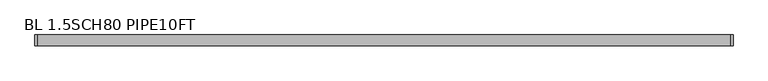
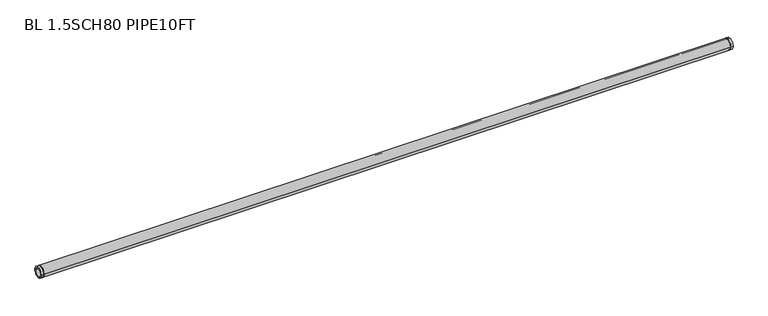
"""IFC4 building model written with IfcOpenShell, lengths in millimetres: valve geometry, Pipe-FRPP-Orion-Blueline_Schedule_80_Series : BL 1.5SCH80 PIPE10FT."""

from ifc_helpers import new_model, si_unit, frame, origin, place, context, project, spatial, polyline, circle_curve, source, transform, mapped, element, save
from ifc_brep_helpers import plane_surface, cylinder_surface, revolved_surface, advanced_brep


def bl_1_5sch80_pipe10ft_28528441(model_context):
    return source(origin(), model_context, "Body", "AdvancedBrep", [
        advanced_brep(
        [(-1524.0, -19.05, 0.0), (-1524.0, 19.05, 0.0), (-1524.0, 24.1101562, 0.0), (-1524.0, -24.1101563, 0.0), (1524.0, -19.05, 0.0), (1524.0, 19.05, 0.0), (1524.0, -24.1101563, 0.0), (1524.0, 24.1101562, 0.0), (1514.1702, -24.1101563, 0.0), (1514.1702, 24.1101562, 0.0), (1514.1702, -23.0941563, 0.0), (1514.1702, 23.0941563, 0.0), (1510.9952, -23.0941563, 0.0), (1510.9952, 23.0941563, 0.0), (1510.9952, -24.1101563, 0.0), (1510.9952, 24.1101562, 0.0), (-1510.9952, -24.1101563, 0.0), (-1510.9952, 24.1101562, 0.0), (-1510.9952, -23.0941563, 0.0), (-1510.9952, 23.0941562, 0.0), (-1514.1702, -23.0941563, 0.0), (-1514.1702, 23.0941562, 0.0), (-1514.1702, -24.1101563, 0.0), (-1514.1702, 24.1101562, 0.0)],
        [
            (0, 1, circle_curve(frame((-1524.0, 0.0, 0.0), z_axis=(1.0, 0.0, 0.0), x_axis=(0.0, 1.0, 0.0)), 19.05)),
            (1, 2),
            (2, 3, circle_curve(frame((-1524.0, 0.0, 0.0), z_axis=(-1.0, 0.0, 0.0), x_axis=(0.0, 1.0, 0.0)), 24.1101563)),
            (3, 0),
            (1, 0, circle_curve(frame((-1524.0, 0.0, 0.0), z_axis=(1.0, 0.0, 0.0), x_axis=(0.0, 1.0, 0.0)), 19.05)),
            (3, 2, circle_curve(frame((-1524.0, 0.0, 0.0), z_axis=(-1.0, 0.0, 0.0), x_axis=(0.0, 1.0, 0.0)), 24.1101563)),
            (4, 5, circle_curve(frame((1524.0, 0.0, 0.0), z_axis=(1.0, 0.0, 0.0), x_axis=(0.0, 1.0, 0.0)), 19.05)),
            (5, 1),
            (0, 4),
            (5, 4, circle_curve(frame((1524.0, 0.0, 0.0), z_axis=(1.0, 0.0, 0.0), x_axis=(0.0, 1.0, 0.0)), 19.05)),
            (6, 7, circle_curve(frame((1524.0, 0.0, 0.0), z_axis=(1.0, 0.0, 0.0), x_axis=(0.0, 1.0, 0.0)), 24.1101563)),
            (7, 5),
            (4, 6),
            (7, 6, circle_curve(frame((1524.0, 0.0, 0.0), z_axis=(1.0, 0.0, 0.0), x_axis=(0.0, 1.0, 0.0)), 24.1101563)),
            (8, 9, circle_curve(frame((1514.1702, 0.0, 0.0), z_axis=(1.0, 0.0, 0.0), x_axis=(0.0, 1.0, 0.0)), 24.1101563)),
            (9, 7),
            (6, 8),
            (9, 8, circle_curve(frame((1514.1702, 0.0, 0.0), z_axis=(1.0, 0.0, 0.0), x_axis=(0.0, 1.0, 0.0)), 24.1101563)),
            (10, 11, circle_curve(frame((1514.1702, 0.0, 0.0), z_axis=(1.0, 0.0, 0.0), x_axis=(0.0, 1.0, 0.0)), 23.0941563)),
            (11, 9),
            (8, 10),
            (11, 10, circle_curve(frame((1514.1702, 0.0, 0.0), z_axis=(1.0, 0.0, 0.0), x_axis=(0.0, 1.0, 0.0)), 23.0941563)),
            (12, 13, circle_curve(frame((1510.9952, 0.0, 0.0), z_axis=(1.0, 0.0, 0.0), x_axis=(0.0, 1.0, 0.0)), 23.0941563)),
            (13, 11),
            (10, 12),
            (13, 12, circle_curve(frame((1510.9952, 0.0, 0.0), z_axis=(1.0, 0.0, 0.0), x_axis=(0.0, 1.0, 0.0)), 23.0941563)),
            (14, 15, circle_curve(frame((1510.9952, 0.0, 0.0), z_axis=(1.0, 0.0, 0.0), x_axis=(0.0, 1.0, 0.0)), 24.1101563)),
            (15, 13),
            (12, 14),
            (15, 14, circle_curve(frame((1510.9952, 0.0, 0.0), z_axis=(1.0, 0.0, 0.0), x_axis=(0.0, 1.0, 0.0)), 24.1101563)),
            (16, 17, circle_curve(frame((-1510.9952, 0.0, 0.0), z_axis=(1.0, 0.0, 0.0), x_axis=(0.0, 1.0, 0.0)), 24.1101563)),
            (17, 15),
            (14, 16),
            (17, 16, circle_curve(frame((-1510.9952, 0.0, 0.0), z_axis=(1.0, 0.0, 0.0), x_axis=(0.0, 1.0, 0.0)), 24.1101563)),
            (18, 19, circle_curve(frame((-1510.9952, 0.0, 0.0), z_axis=(1.0, 0.0, 0.0), x_axis=(0.0, 1.0, 0.0)), 23.0941563)),
            (19, 17),
            (16, 18),
            (19, 18, circle_curve(frame((-1510.9952, 0.0, 0.0), z_axis=(1.0, 0.0, 0.0), x_axis=(0.0, 1.0, 0.0)), 23.0941563)),
            (20, 21, circle_curve(frame((-1514.1702, 0.0, 0.0), z_axis=(1.0, 0.0, 0.0), x_axis=(0.0, 1.0, 0.0)), 23.0941563)),
            (21, 19),
            (18, 20),
            (21, 20, circle_curve(frame((-1514.1702, 0.0, 0.0), z_axis=(1.0, 0.0, 0.0), x_axis=(0.0, 1.0, 0.0)), 23.0941563)),
            (22, 23, circle_curve(frame((-1514.1702, 0.0, 0.0), z_axis=(1.0, 0.0, 0.0), x_axis=(0.0, 1.0, 0.0)), 24.1101563)),
            (23, 21),
            (20, 22),
            (23, 22, circle_curve(frame((-1514.1702, 0.0, 0.0), z_axis=(1.0, 0.0, 0.0), x_axis=(0.0, 1.0, 0.0)), 24.1101563)),
            (2, 23),
            (22, 3),
        ],
        [
            plane_surface(frame((-1524.0, 0.0, 0.0), z_axis=(-1.0, 0.0, 0.0), x_axis=(0.0, 1.0, 0.0))),
            revolved_surface(polyline([(-1523.9999999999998, 19.05, 0.0), (1524.0, 19.05, 0.0)]), (1442.5046513, 0.0, 0.0), (-1.0, 0.0, 0.0)),
            plane_surface(frame((1524.0, 0.0, 0.0), z_axis=(1.0, 0.0, 0.0), x_axis=(0.0, 1.0, 0.0))),
            cylinder_surface(frame((1442.5046513, 0.0, 0.0), z_axis=(-1.0, 0.0, 0.0), x_axis=(0.0, 1.0, 0.0)), 24.1101563),
            plane_surface(frame((1514.1702, 0.0, 0.0), z_axis=(-1.0, 0.0, 0.0), x_axis=(0.0, 1.0, 0.0))),
            cylinder_surface(frame((1442.5046513, 0.0, 0.0), z_axis=(-1.0, 0.0, 0.0), x_axis=(0.0, 1.0, 0.0)), 23.0941563),
            plane_surface(frame((1510.9952, 0.0, 0.0), z_axis=(1.0, 0.0, 0.0), x_axis=(0.0, 1.0, 0.0))),
            plane_surface(frame((-1510.9952, 0.0, 0.0), z_axis=(-1.0, 0.0, 0.0), x_axis=(0.0, 1.0, 0.0))),
            plane_surface(frame((-1514.1702, 0.0, 0.0), z_axis=(1.0, 0.0, 0.0), x_axis=(0.0, 1.0, 0.0))),
        ],
        [
            (0, [[1, 2, 3, 4]]),
            (0, [[5, -4, 6, -2]]),
            (1, [[7, 8, -1, 9]]),
            (1, [[10, -9, -5, -8]]),
            (2, [[11, 12, -7, 13]]),
            (2, [[14, -13, -10, -12]]),
            (3, [[15, 16, -11, 17]]),
            (3, [[18, -17, -14, -16]]),
            (4, [[19, 20, -15, 21]]),
            (4, [[22, -21, -18, -20]]),
            (5, [[23, 24, -19, 25]]),
            (5, [[26, -25, -22, -24]]),
            (6, [[27, 28, -23, 29]]),
            (6, [[30, -29, -26, -28]]),
            (3, [[31, 32, -27, 33]]),
            (3, [[34, -33, -30, -32]]),
            (7, [[35, 36, -31, 37]]),
            (7, [[38, -37, -34, -36]]),
            (5, [[39, 40, -35, 41]]),
            (5, [[42, -41, -38, -40]]),
            (8, [[43, 44, -39, 45]]),
            (8, [[46, -45, -42, -44]]),
            (3, [[-3, 47, -43, 48]]),
            (3, [[-6, -48, -46, -47]]),
        ],
    ),
    ])


if __name__ == "__main__":
    model = new_model("IFC4")
    model_context = context("Model", 3, world=origin())
    ifc_project = project(units=[si_unit("LENGTHUNIT", "METRE", prefix="MILLI")], contexts=[model_context])
    site = spatial("IfcSite", under=ifc_project)
    building = spatial("IfcBuilding", under=site)
    placement = place(None, origin())
    bl_1_5sch80_pipe10ft_shape = bl_1_5sch80_pipe10ft_28528441(model_context)
    element("IfcValve", 1, ObjectType="Pipe-FRPP-Orion-Blueline_Schedule_80_Series : BL 1.5SCH80 PIPE10FT", at=placement, inside=building, context=model_context, shape_type="MappedRepresentation", body=[
        mapped(bl_1_5sch80_pipe10ft_shape, transform((0.0, 0.0, 0.0), x_axis=(1.0, 0.0, 0.0), y_axis=(0.0, 1.0, 0.0), z_axis=(0.0, 0.0, 1.0))),
    ])
    save(model, "model.ifc")
